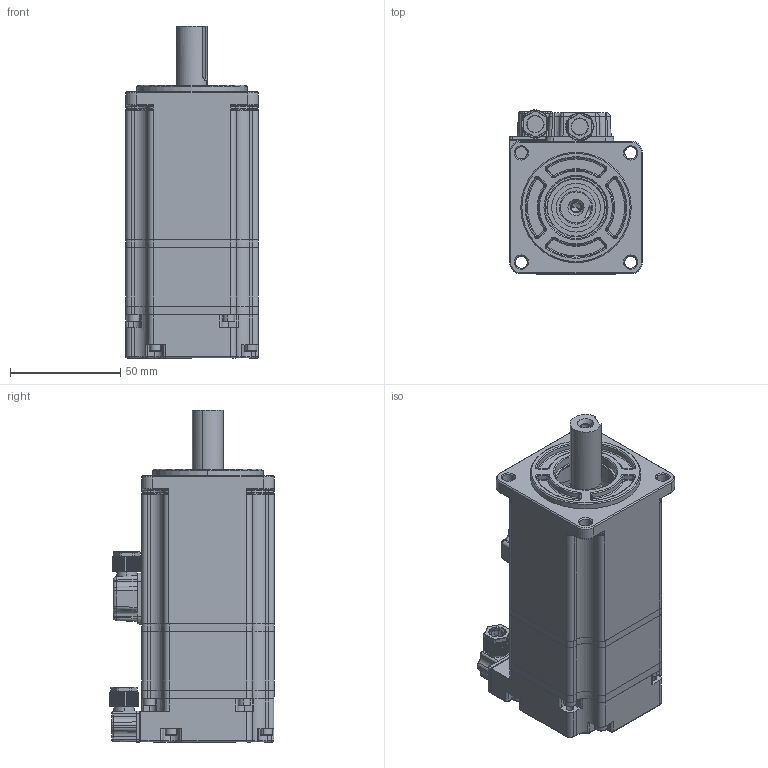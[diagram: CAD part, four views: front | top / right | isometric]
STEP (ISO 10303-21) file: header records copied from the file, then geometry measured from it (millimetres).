
FILE_DESCRIPTION (( 'STEP AP203' ), '1' );
FILE_NAME ('60 200ÖÆ¶¯.STEP', '2024-10-22T06:03:46', ( 'MicroSoft' ), ( 'MicroSoft' ), 'SwSTEP 2.0', 'SolidWorks 2020', '' );
FILE_SCHEMA (( 'CONFIG_CONTROL_DESIGN' ));
Length unit declared in the file: millimetre
Products named in the file (12): 晤鎢ん2.stp; 60 200秶雄; 60陔綴裔秶雄(1); 60新后盖制动 - 宝德利制动器; M3X25 囀鞠褒蹟邡_M3 x 30; 60陔綴裔秶雄(2); 60儂褲; 60呿蹋裔.stp; M3X45 囀鞠褒蹟邡_M3 x 45; Z60A-01-12(60A秶雄儂褲-肅迿)_400W; Z60A-01-01A(60粣秶雄遴)_750W; 晤鎢ん1.stp
Assembly tree (17 placements, depth 2):
  60 200秶雄
    60儂褲
    60陔綴裔秶雄(1)
    Z60A-01-12(60A秶雄儂褲-肅迿)_400W
    60陔綴裔秶雄(2)
    60呿蹋裔.stp
    M3X45 囀鞠褒蹟邡_M3 x 45  x4
    M3X25 囀鞠褒蹟邡_M3 x 30  x4
    60新后盖制动 - 宝德利制动器
    Z60A-01-01A(60粣秶雄遴)_750W
    晤鎢ん1.stp
    晤鎢ん2.stp
Bounding box: 60 x 74.37 x 150.3 mm (x, y, z)
Volume: 151127.2 mm3; surface area: 113189.8 mm2
Topology: 17 solids, 17 shells, 3164 faces, 8102 edges, 4995 vertices
Faces by surface type: plane 949, cylinder 932, bspline 530, cone 510, torus 221, sphere 22
Entity records: 117298 total; most frequent: CARTESIAN_POINT 45354, ORIENTED_EDGE 15628, DIRECTION 13504, EDGE_CURVE 7814, AXIS2_PLACEMENT_3D 5157, VERTEX_POINT 4893, EDGE_LOOP 3403, LINE 3190
